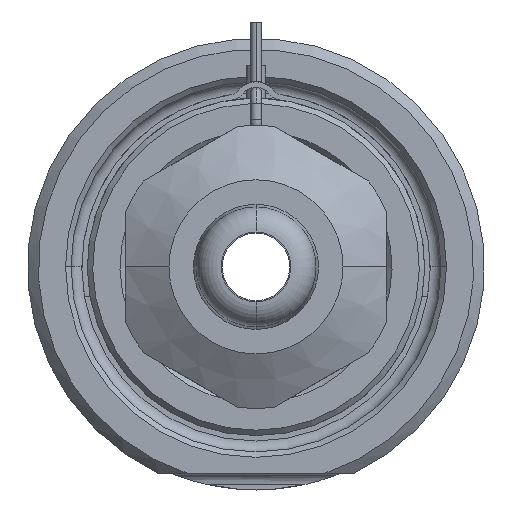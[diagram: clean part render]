
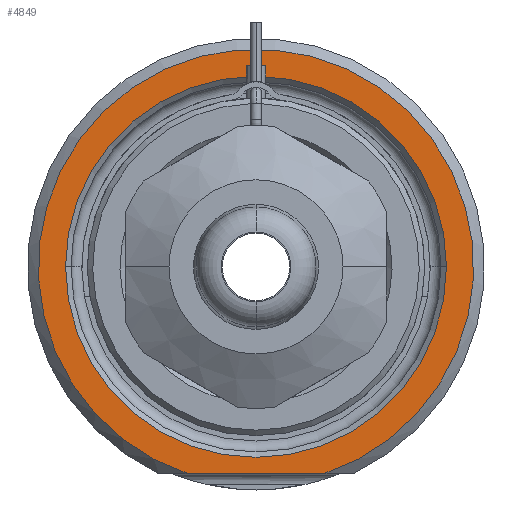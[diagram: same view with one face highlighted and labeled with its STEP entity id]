
A CAD part, front view. The second image highlights one B-rep face of the part: STEP entity #4849.
In plain terms, the highlighted planar face has unit normal (0, -1, 0).
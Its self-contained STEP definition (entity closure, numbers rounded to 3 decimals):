
#1407=DIRECTION('',(1.,0.,0.));
#1408=VECTOR('',#1407,12.49);
#1409=CARTESIAN_POINT('',(-6.245,0.,-19.));
#1410=LINE('',#1409,#1408);
#1411=CARTESIAN_POINT('',(0.,0.,0.));
#1412=DIRECTION('',(0.,1.,0.));
#1413=DIRECTION('',(-1.,0.,0.));
#1414=AXIS2_PLACEMENT_3D('',#1411,#1412,#1413);
#1416=CARTESIAN_POINT('',(0.,0.,0.));
#1417=DIRECTION('',(0.,1.,0.));
#1418=DIRECTION('',(1.,0.,0.));
#1419=AXIS2_PLACEMENT_3D('',#1416,#1417,#1418);
#1525=CARTESIAN_POINT('',(0.,0.,0.));
#1526=DIRECTION('',(0.,-1.,0.));
#1527=DIRECTION('',(0.312,0.,-0.95));
#1528=AXIS2_PLACEMENT_3D('',#1525,#1526,#1527);
#2705=CARTESIAN_POINT('',(-17.5,0.,0.));
#2706=CARTESIAN_POINT('',(17.5,0.,0.));
#2707=VERTEX_POINT('',#2705);
#2708=VERTEX_POINT('',#2706);
#2749=CARTESIAN_POINT('',(-6.245,0.,-19.));
#2750=CARTESIAN_POINT('',(6.245,0.,-19.));
#2751=VERTEX_POINT('',#2749);
#2752=VERTEX_POINT('',#2750);
#4833=CARTESIAN_POINT('',(0.,0.,0.));
#4834=DIRECTION('',(0.,-1.,0.));
#4835=DIRECTION('',(1.,0.,0.));
#4836=AXIS2_PLACEMENT_3D('',#4833,#4834,#4835);
#4837=PLANE('',#4836);
#4839=ORIENTED_EDGE('',*,*,#4838,.F.);
#4841=ORIENTED_EDGE('',*,*,#4840,.F.);
#4842=EDGE_LOOP('',(#4839,#4841));
#4843=FACE_OUTER_BOUND('',#4842,.F.);
#4844=ORIENTED_EDGE('',*,*,#4823,.F.);
#4846=ORIENTED_EDGE('',*,*,#4845,.F.);
#4847=EDGE_LOOP('',(#4844,#4846));
#4848=FACE_BOUND('',#4847,.F.);
#4849=ADVANCED_FACE('',(#4843,#4848),#4837,.T.);
#1415=CIRCLE('',#1414,17.5);
#1420=CIRCLE('',#1419,17.5);
#1529=CIRCLE('',#1528,20.);
#4823=EDGE_CURVE('',#2707,#2708,#1415,.T.);
#4838=EDGE_CURVE('',#2751,#2752,#1410,.T.);
#4840=EDGE_CURVE('',#2752,#2751,#1529,.T.);
#4845=EDGE_CURVE('',#2708,#2707,#1420,.T.);
